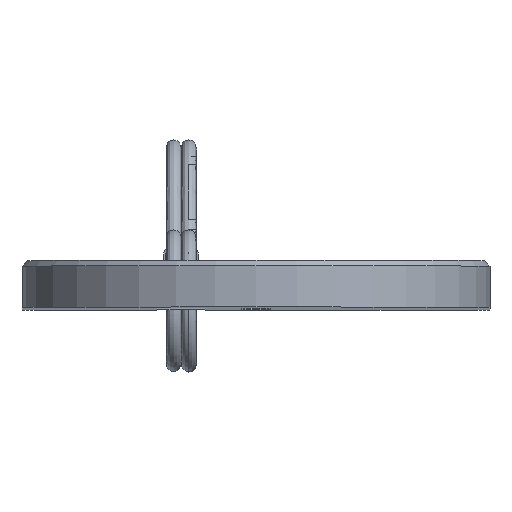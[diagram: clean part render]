
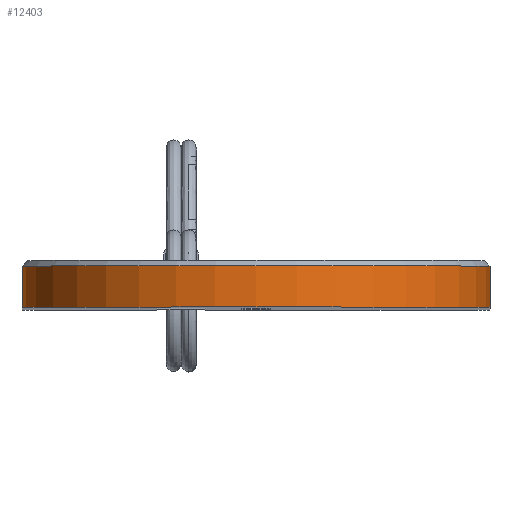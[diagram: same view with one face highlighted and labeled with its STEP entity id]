
A CAD part, top view. The second image highlights one B-rep face of the part: STEP entity #12403.
In plain terms, the highlighted cylindrical face has radius 25 mm (diameter 50 mm), a partial arc.
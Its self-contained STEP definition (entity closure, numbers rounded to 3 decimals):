
#83 = EDGE_CURVE ( 'NONE', #5714, #18702, #2236, .T. ) ;
#481 = DIRECTION ( 'NONE',  ( 0., -1., 0. ) ) ;
#661 = CARTESIAN_POINT ( 'NONE',  ( 0., 0., 0. ) ) ;
#1093 = FACE_OUTER_BOUND ( 'NONE', #20770, .T. ) ;
#2236 = LINE ( 'NONE', #16733, #10305 ) ;
#2315 = EDGE_CURVE ( 'NONE', #17659, #5714, #22027, .T. ) ;
#2535 = DIRECTION ( 'NONE',  ( 0., 0., 1. ) ) ;
#3090 = VERTEX_POINT ( 'NONE', #20761 ) ;
#5714 = VERTEX_POINT ( 'NONE', #6165 ) ;
#6038 = AXIS2_PLACEMENT_3D ( 'NONE', #661, #19949, #2535 ) ;
#6165 = CARTESIAN_POINT ( 'NONE',  ( 0., 4.4, -25. ) ) ;
#7572 = CARTESIAN_POINT ( 'NONE',  ( 0., 4.4, 0. ) ) ;
#7729 = ORIENTED_EDGE ( 'NONE', *, *, #2315, .T. ) ;
#8126 = CARTESIAN_POINT ( 'NONE',  ( 0., 5., 0. ) ) ;
#8472 = DIRECTION ( 'NONE',  ( 0., 0., -1. ) ) ;
#9093 = DIRECTION ( 'NONE',  ( 0., -1., 0. ) ) ;
#9216 = DIRECTION ( 'NONE',  ( 0., 0., 1. ) ) ;
#9564 = EDGE_CURVE ( 'NONE', #18702, #3090, #16123, .T. ) ;
#10305 = VECTOR ( 'NONE', #481, 1000. ) ;
#10680 = VECTOR ( 'NONE', #22911, 1000. ) ;
#11964 = AXIS2_PLACEMENT_3D ( 'NONE', #7572, #9093, #9216 ) ;
#12403 = ADVANCED_FACE ( 'NONE', ( #1093 ), #19211, .T. ) ;
#14155 = CARTESIAN_POINT ( 'NONE',  ( 0., 4.4, 25. ) ) ;
#15551 = CARTESIAN_POINT ( 'NONE',  ( 0., 5., 25. ) ) ;
#16123 = CIRCLE ( 'NONE', #6038, 25. ) ;
#16733 = CARTESIAN_POINT ( 'NONE',  ( 0., 5., -25. ) ) ;
#17349 = DIRECTION ( 'NONE',  ( 0., -1., 0. ) ) ;
#17537 = EDGE_CURVE ( 'NONE', #17659, #3090, #19056, .T. ) ;
#17586 = CARTESIAN_POINT ( 'NONE',  ( 0., 0., -25. ) ) ;
#17659 = VERTEX_POINT ( 'NONE', #14155 ) ;
#18702 = VERTEX_POINT ( 'NONE', #17586 ) ;
#18727 = ORIENTED_EDGE ( 'NONE', *, *, #17537, .F. ) ;
#19056 = LINE ( 'NONE', #15551, #10680 ) ;
#19211 = CYLINDRICAL_SURFACE ( 'NONE', #19927, 25. ) ;
#19927 = AXIS2_PLACEMENT_3D ( 'NONE', #8126, #17349, #8472 ) ;
#19949 = DIRECTION ( 'NONE',  ( 0., 1., 0. ) ) ;
#20032 = ORIENTED_EDGE ( 'NONE', *, *, #9564, .T. ) ;
#20761 = CARTESIAN_POINT ( 'NONE',  ( 0., 0., 25. ) ) ;
#20770 = EDGE_LOOP ( 'NONE', ( #18727, #7729, #21900, #20032 ) ) ;
#21900 = ORIENTED_EDGE ( 'NONE', *, *, #83, .T. ) ;
#22027 = CIRCLE ( 'NONE', #11964, 25. ) ;
#22911 = DIRECTION ( 'NONE',  ( 0., -1., 0. ) ) ;
